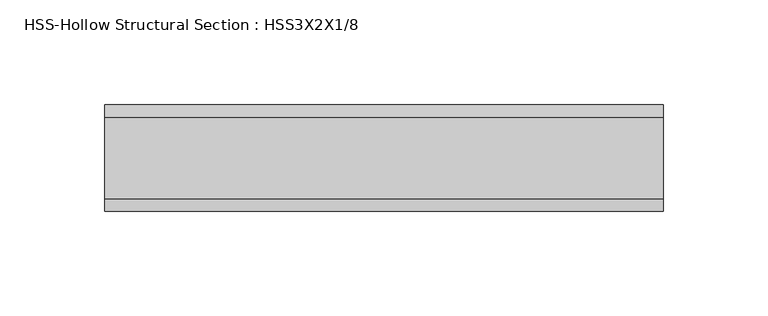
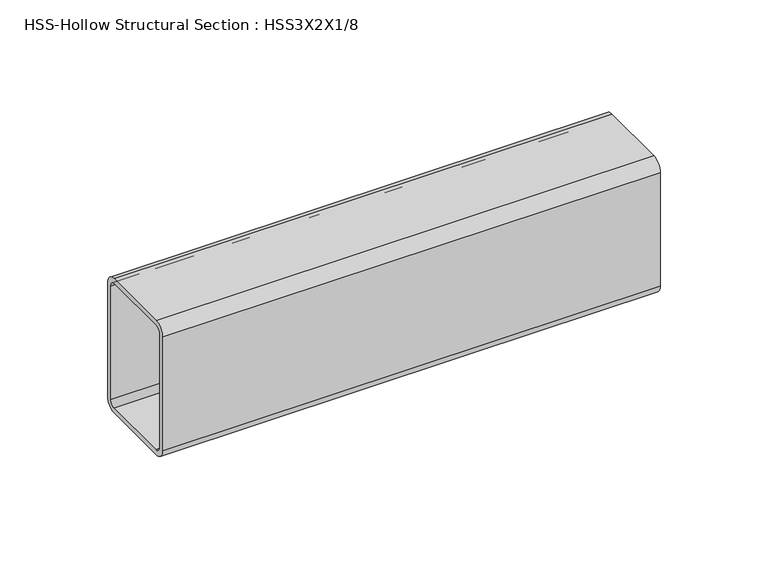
"""IFC4 building model written with IfcOpenShell, lengths in millimetres: beam geometry, HSS-Hollow Structural Section : HSS3X2X1/8."""

from ifc_helpers import new_model, si_unit, point, frame, frame_2d, origin, place, context, project, spatial, polyline, circle_curve, trimmed, segment, composite_curve, outline, extrude, source, transform, mapped, element, save


def hss_hollow_structural_section_hss3x2x1_8_139d3190(model_context):
    return source(origin(), model_context, "Body", "SweptSolid", [
        extrude(outline(composite_curve([segment(polyline([(25.4, 32.2072), (25.4, -32.2072)]), True, "CONTINUOUS"), segment(trimmed(circle_curve(frame_2d((19.5072, -32.2072)), 5.8928), [point((25.4, -32.2072))], [point((19.5072, -38.1))], False, "CARTESIAN"), True, "CONTINUOUS"), segment(polyline([(19.5072, -38.1), (-19.5072, -38.1)]), True, "CONTINUOUS"), segment(trimmed(circle_curve(frame_2d((-19.5072, -32.2072)), 5.8928), [point((-19.5072, -38.1))], [point((-25.4, -32.2072))], False, "CARTESIAN"), True, "CONTINUOUS"), segment(polyline([(-25.4, -32.2072), (-25.4, 32.2072)]), True, "CONTINUOUS"), segment(trimmed(circle_curve(frame_2d((-19.5072, 32.2072)), 5.8928), [point((-25.4, 32.2072))], [point((-19.5072, 38.1))], False, "CARTESIAN"), True, "CONTINUOUS"), segment(polyline([(-19.5072, 38.1), (19.5072, 38.1)]), True, "CONTINUOUS"), segment(trimmed(circle_curve(frame_2d((19.5072, 32.2072)), 5.8928), [point((19.5072, 38.1))], [point((25.4, 32.2072))], False, "CARTESIAN"), True, "CONTINUOUS")], self_intersect=False), holes=[composite_curve([segment(trimmed(circle_curve(frame_2d((-19.5072, 32.2072)), 2.9464), [point((-19.5072, 35.1536))], [point((-22.4536, 32.2072))], True, "CARTESIAN"), True, "CONTINUOUS"), segment(polyline([(-22.4536, 32.2072), (-22.4536, -32.2072)]), True, "CONTINUOUS"), segment(trimmed(circle_curve(frame_2d((-19.5072, -32.2072)), 2.9464), [point((-22.4536, -32.2072))], [point((-19.5072, -35.1536))], True, "CARTESIAN"), True, "CONTINUOUS"), segment(polyline([(-19.5072, -35.1536), (19.5072, -35.1536)]), True, "CONTINUOUS"), segment(trimmed(circle_curve(frame_2d((19.5072, -32.2072)), 2.9464), [point((19.5072, -35.1536))], [point((22.4536, -32.2072))], True, "CARTESIAN"), True, "CONTINUOUS"), segment(polyline([(22.4536, -32.2072), (22.4536, 32.2072)]), True, "CONTINUOUS"), segment(trimmed(circle_curve(frame_2d((19.5072, 32.2072)), 2.9464), [point((22.4536, 32.2072))], [point((19.5072, 35.1536))], True, "CARTESIAN"), True, "CONTINUOUS"), segment(polyline([(19.5072, 35.1536), (-19.5072, 35.1536)]), True, "CONTINUOUS")], self_intersect=False)]), frame((-114.2908125, 0.0, 0.0), z_axis=(1.0, 0.0, 0.0), x_axis=(0.0, 1.0, 0.0)), (0.0, 0.0, 1.0), 266.6816251),
    ])


if __name__ == "__main__":
    model = new_model("IFC4")
    model_context = context("Model", 3, world=origin())
    ifc_project = project(units=[si_unit("LENGTHUNIT", "METRE", prefix="MILLI")], contexts=[model_context])
    site = spatial("IfcSite", under=ifc_project)
    building = spatial("IfcBuilding", under=site)
    placement = place(None, origin())
    hss_hollow_structural_section_hss3x2x1_8_shape = hss_hollow_structural_section_hss3x2x1_8_139d3190(model_context)
    element("IfcBeam", 1, ObjectType="HSS-Hollow Structural Section : HSS3X2X1/8", at=placement, inside=building, context=model_context, shape_type="MappedRepresentation", body=[
        mapped(hss_hollow_structural_section_hss3x2x1_8_shape, transform((0.0, 0.0, 0.0), x_axis=(1.0, 0.0, 0.0), y_axis=(0.0, 1.0, 0.0), z_axis=(0.0, 0.0, 1.0))),
    ])
    save(model, "model.ifc")
